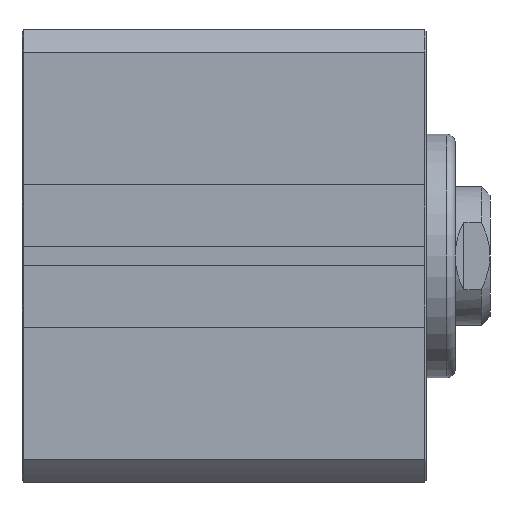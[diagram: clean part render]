
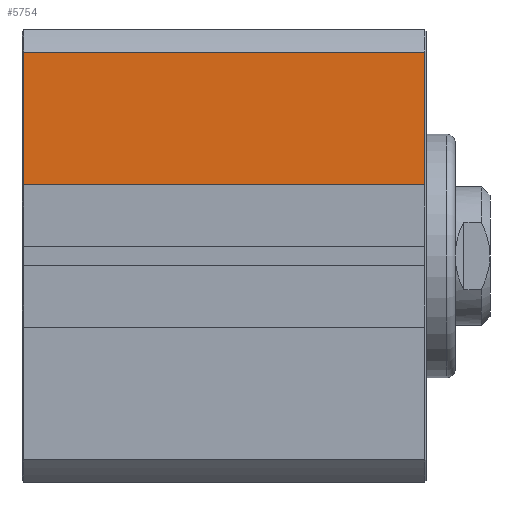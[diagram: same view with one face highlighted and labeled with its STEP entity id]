
A CAD part, left-side view. The second image highlights one B-rep face of the part: STEP entity #5754.
In plain terms, the highlighted planar face has unit normal (-1, 0, 0).
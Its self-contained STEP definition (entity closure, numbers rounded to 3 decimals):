
#108=LINE('',#7920,#486);
#109=LINE('',#7924,#487);
#110=LINE('',#7926,#488);
#111=LINE('',#7928,#489);
#486=VECTOR('',#6805,1000.);
#487=VECTOR('',#6810,1000.);
#488=VECTOR('',#6811,1000.);
#489=VECTOR('',#6812,1000.);
#1210=ORIENTED_EDGE('',*,*,#2135,.F.);
#1211=ORIENTED_EDGE('',*,*,#2137,.T.);
#1212=ORIENTED_EDGE('',*,*,#2138,.T.);
#1213=ORIENTED_EDGE('',*,*,#2139,.T.);
#2135=EDGE_CURVE('',#2624,#2625,#108,.T.);
#2137=EDGE_CURVE('',#2624,#2626,#109,.T.);
#2138=EDGE_CURVE('',#2626,#2627,#110,.T.);
#2139=EDGE_CURVE('',#2627,#2625,#111,.T.);
#2624=VERTEX_POINT('',#7919);
#2625=VERTEX_POINT('',#7921);
#2626=VERTEX_POINT('',#7925);
#2627=VERTEX_POINT('',#7927);
#3102=EDGE_LOOP('',(#1210,#1211,#1212,#1213));
#3438=FACE_BOUND('',#3102,.T.);
#3669=PLANE('',#6125);
#5754=ADVANCED_FACE('',(#3438),#3669,.T.);
#6125=AXIS2_PLACEMENT_3D('',#7923,#6808,#6809);
#6805=DIRECTION('',(0.,-1.,0.));
#6808=DIRECTION('',(-1.,0.,0.));
#6809=DIRECTION('',(0.,-1.,0.));
#6810=DIRECTION('',(0.,0.,-1.));
#6811=DIRECTION('',(0.,-1.,0.));
#6812=DIRECTION('',(0.,0.,1.));
#7919=CARTESIAN_POINT('',(-26.,46.3,23.431));
#7920=CARTESIAN_POINT('',(-26.,36.5,23.431));
#7921=CARTESIAN_POINT('',(-26.,0.2,23.431));
#7923=CARTESIAN_POINT('',(-26.,36.5,8.2));
#7924=CARTESIAN_POINT('',(-26.,46.3,8.2));
#7925=CARTESIAN_POINT('',(-26.,46.3,8.2));
#7926=CARTESIAN_POINT('',(-26.,36.5,8.2));
#7927=CARTESIAN_POINT('',(-26.,0.2,8.2));
#7928=CARTESIAN_POINT('',(-26.,0.2,8.2));
